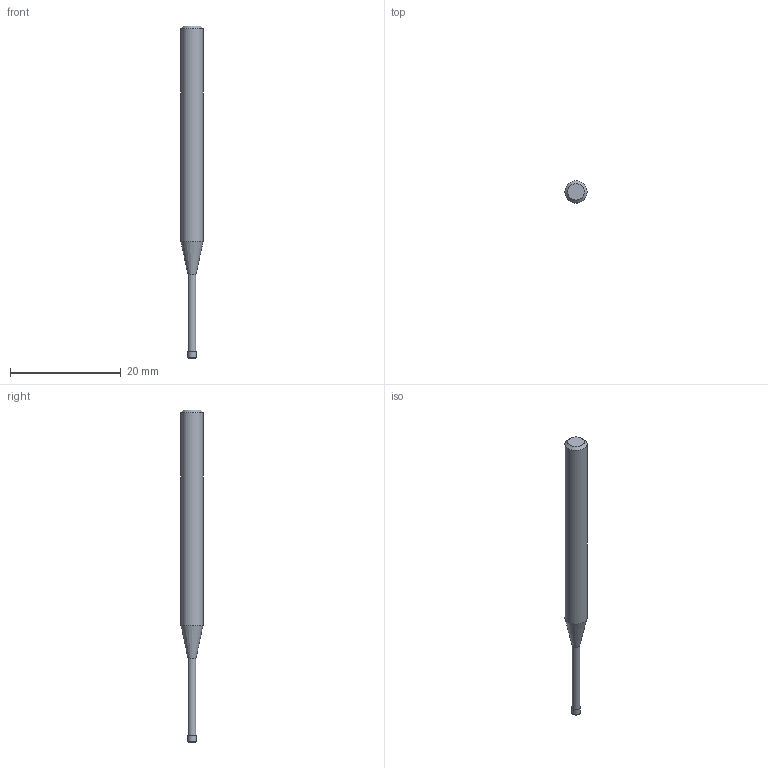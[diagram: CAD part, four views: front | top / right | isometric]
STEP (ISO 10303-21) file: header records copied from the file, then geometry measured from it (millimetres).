
FILE_DESCRIPTION((''),'2;1');
FILE_NAME('C:\Users\nsx150\AppData\Local\Temp\Mastercam 2021\3SYKECWX22\TEMP.step','2021-04-22T09:48:14',(''),(''),'STEP Write','Mastercam 2021 ... CNC Software, Inc.','');
FILE_SCHEMA(('AUTOMOTIVE_DESIGN'));
Length unit declared in the file: millimetre
Products named in the file (1): None
Bounding box: 4 x 4 x 60 mm (x, y, z)
Volume: 550 mm3; surface area: 623.4 mm2
Topology: 2 solids, 2 shells, 10 faces, 14 edges, 8 vertices
Faces by surface type: plane 4, cylinder 3, cone 2, torus 1
Full cylindrical faces by diameter (mm): 1.43 x1, 1.5 x1, 4 x1
Entity records: 232 total; most frequent: DIRECTION 40, CARTESIAN_POINT 28, AXIS2_PLACEMENT_3D 20, ORIENTED_EDGE 16, EDGE_LOOP 16, STYLED_ITEM 13, ADVANCED_FACE 10, FACE_BOUND 10
